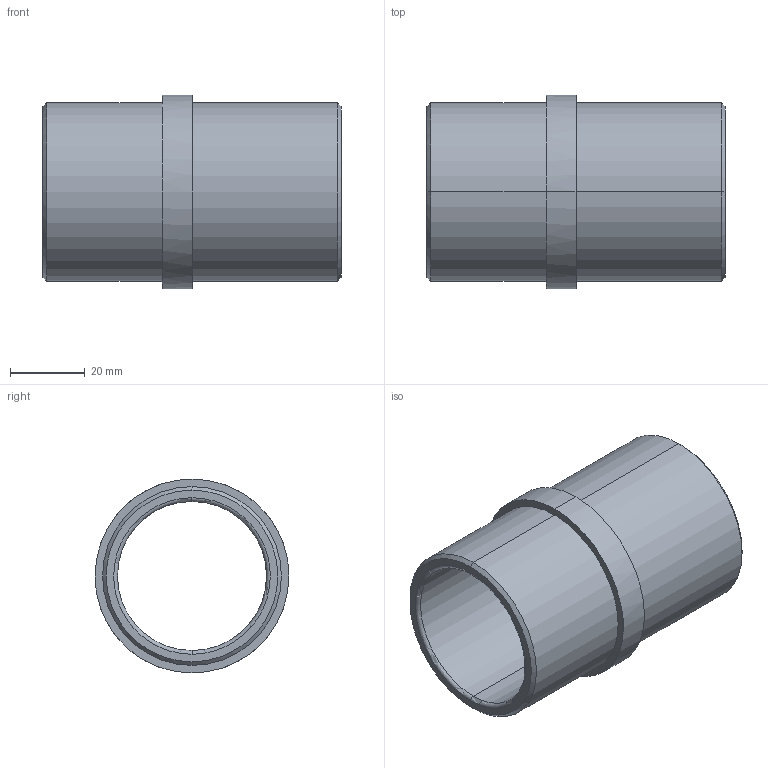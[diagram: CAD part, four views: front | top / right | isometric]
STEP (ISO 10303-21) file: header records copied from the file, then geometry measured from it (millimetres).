
FILE_DESCRIPTION(('CATIA V5 STEP Exchange'),'2;1');
FILE_NAME('C:\Users\Utente\Desktop\IO LAVORO\3D X SITO CF\X SITO\PLASTICA\355\355-40X80.stp','2021-04-21T08:53:06+00:00',('none'),('none'),'CATIA Version 5 Release 20 GA (IN-10)','CATIA V5 STEP AP203','none');
FILE_SCHEMA(('CONFIG_CONTROL_DESIGN'));
Length unit declared in the file: millimetre
Products named in the file (1): 355-40X80
Bounding box: 80 x 52 x 52 mm (x, y, z)
Volume: 46543.7 mm3; surface area: 23665.2 mm2
Topology: 1 solids, 1 shells, 20 faces, 64 edges, 48 vertices
Faces by surface type: cylinder 8, plane 4, cone 4, torus 4
Entity records: 906 total; most frequent: CARTESIAN_POINT 301, ORIENTED_EDGE 128, DIRECTION 92, EDGE_CURVE 64, AXIS2_PLACEMENT_3D 61, VERTEX_POINT 48, CIRCLE 40, EDGE_LOOP 24
